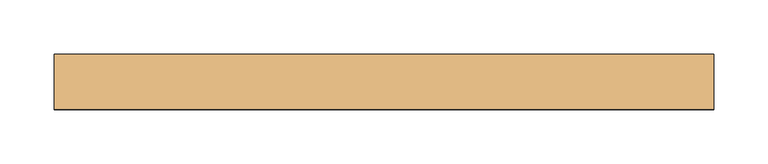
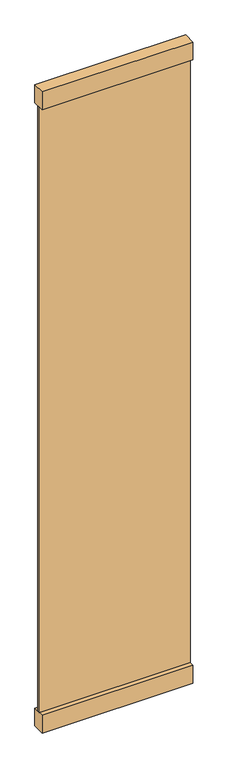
"""IFC4 building model written with IfcOpenShell, lengths in millimetres: door geometry, Planitar - Swap_Full Glass_Panel_D2 : Planitar - Swap_Full Glass_Panel_D2."""

import ifcopenshell
import ifcopenshell.guid

model = None  # the IFC model being written
_history = None  # IfcOwnerHistory: only IFC2X3 demands one
_inside = {}  # id of a spatial element -> (the spatial element, [elements in it])
_under = {}  # id of a project, library or spatial element -> (it, [spatial elements below it])
_declared = {}  # id of a project -> (the project, [libraries it declares])
_typed = {}  # id of a type object -> (the type object, [elements of that type])
_made_of = {}  # id of a material, layer set ... -> (it, [elements and type objects made of it])


def new_model(schema):
    """Start an empty IFC model of exactly this schema.

    Asked for "IFC4X3", IfcOpenShell would pick the latest addendum, in which some entities
    have other attributes; the version numbers below select the first issue.
    IFC2X3 requires an IfcOwnerHistory on every rooted entity: one is made here for all.
    """
    global model, _history
    if schema == "IFC4X3":
        model = ifcopenshell.file(schema_version=(4, 3, 0, 0))
    else:
        model = ifcopenshell.file(schema=schema)
    _inside.clear()
    _under.clear()
    _declared.clear()
    _typed.clear()
    _made_of.clear()
    _history = None
    if model.schema == "IFC2X3":
        org = make("IfcOrganization", Name="unknown")
        user = make(
            "IfcPersonAndOrganization",
            ThePerson=make("IfcPerson", FamilyName="unknown"),
            TheOrganization=org,
        )
        app = make(
            "IfcApplication",
            ApplicationDeveloper=org,
            Version="unknown",
            ApplicationFullName="unknown",
            ApplicationIdentifier="unknown",
        )
        _history = make(
            "IfcOwnerHistory",
            OwningUser=user,
            OwningApplication=app,
            ChangeAction="ADDED",
            CreationDate=0,
        )
    return model


def make(cls, **values):
    """One entity of the class cls with the attributes given. An attribute that is None is left unset."""
    return model.create_entity(
        cls, **{name: value for name, value in values.items() if value is not None}
    )


def rooted(cls, **values):
    """An entity with a GlobalId (a new one), such as an element, a storey or a relation."""
    return make(cls, GlobalId=ifcopenshell.guid.new(), OwnerHistory=_history, **values)


def si_unit(unit_type, name, prefix=None):
    """IfcSIUnit, for example si_unit("LENGTHUNIT", "METRE", prefix="MILLI")."""
    return make("IfcSIUnit", UnitType=unit_type, Prefix=prefix, Name=name)


def assignment(units):
    """IfcUnitAssignment: the units of a project."""
    return None if units is None else make("IfcUnitAssignment", Units=units)


def point(xyz):
    """IfcCartesianPoint."""
    return None if xyz is None else make("IfcCartesianPoint", Coordinates=xyz)


def direction(xyz):
    """IfcDirection."""
    return None if xyz is None else make("IfcDirection", DirectionRatios=xyz)


def frame(location, z_axis=None, x_axis=None):
    """IfcAxis2Placement3D, a coordinate frame: its origin and axes. An axis left out is left unset."""
    return make(
        "IfcAxis2Placement3D",
        Location=point(location),
        Axis=direction(z_axis),
        RefDirection=direction(x_axis),
    )


def origin():
    """The frame at (0, 0, 0) with its axes left unset."""
    return frame((0.0, 0.0, 0.0))


def origin_with_axes():
    """The frame at (0, 0, 0) with the z axis (0, 0, 1) and the x axis (1, 0, 0) written out."""
    return frame((0.0, 0.0, 0.0), z_axis=(0.0, 0.0, 1.0), x_axis=(1.0, 0.0, 0.0))


def place(relative_to, where):
    """IfcLocalPlacement: puts the frame where relative to a parent placement (None: the world)."""
    return make(
        "IfcLocalPlacement", PlacementRelTo=relative_to, RelativePlacement=where
    )


def context(
    kind, dimensions, precision=None, world=None, true_north=None, identifier=None
):
    """IfcGeometricRepresentationContext, for example the 3D "Model" context."""
    return make(
        "IfcGeometricRepresentationContext",
        ContextIdentifier=identifier,
        ContextType=kind,
        CoordinateSpaceDimension=dimensions,
        Precision=precision,
        WorldCoordinateSystem=world,
        TrueNorth=true_north,
    )


def project(units=None, contexts=None):
    """IfcProject with its units and contexts."""
    return rooted(
        "IfcProject",
        Name="project",
        RepresentationContexts=contexts,
        UnitsInContext=assignment(units),
    )


def spatial(cls, under=None, at=None, **own):
    """A site, building, storey or space (cls), placed at a placement, below another one or the project."""
    s = rooted(cls, ObjectPlacement=at, **own)
    if under is not None:
        _under.setdefault(under.id(), (under, []))[1].append(s)
    return s


def polyline(points):
    """IfcPolyline through the points."""
    return make("IfcPolyline", Points=[point(p) for p in points])


def outline(outer, holes=None, kind="AREA"):
    """IfcArbitraryClosedProfileDef: a profile drawn as a closed curve; with holes, ...WithVoids."""
    if holes is None:
        return make("IfcArbitraryClosedProfileDef", ProfileType=kind, OuterCurve=outer)
    return make(
        "IfcArbitraryProfileDefWithVoids",
        ProfileType=kind,
        OuterCurve=outer,
        InnerCurves=holes,
    )


def extrude(swept, where, along, depth):
    """IfcExtrudedAreaSolid: the profile swept, set in the frame where, extruded along a direction by depth."""
    return make(
        "IfcExtrudedAreaSolid",
        SweptArea=swept,
        Position=where,
        ExtrudedDirection=direction(along),
        Depth=depth,
    )


def shape(context_of_items, identifier, shape_type, items):
    """IfcShapeRepresentation: the items that make up one representation, for example the "Body"."""
    return make(
        "IfcShapeRepresentation",
        ContextOfItems=context_of_items,
        RepresentationIdentifier=identifier,
        RepresentationType=shape_type,
        Items=items,
    )


def source(mapping_origin, context_of_items, identifier, shape_type, items):
    """IfcRepresentationMap: a shape defined once, which mapped items show again and again."""
    return make(
        "IfcRepresentationMap",
        MappingOrigin=mapping_origin,
        MappedRepresentation=shape(context_of_items, identifier, shape_type, items),
    )


def transform(
    local_origin,
    x_axis=None,
    y_axis=None,
    z_axis=None,
    scale=None,
    scale2=None,
    scale3=None,
    uniform=True,
):
    """IfcCartesianTransformationOperator3D, or its non-uniform kind. x_axis, y_axis, z_axis: its Axis1, 2, 3."""
    if uniform:
        return make(
            "IfcCartesianTransformationOperator3D",
            Axis1=direction(x_axis),
            Axis2=direction(y_axis),
            LocalOrigin=point(local_origin),
            Scale=scale,
            Axis3=direction(z_axis),
        )
    return make(
        "IfcCartesianTransformationOperator3DnonUniform",
        Axis1=direction(x_axis),
        Axis2=direction(y_axis),
        LocalOrigin=point(local_origin),
        Scale=scale,
        Axis3=direction(z_axis),
        Scale2=scale2,
        Scale3=scale3,
    )


def mapped(mapping_source, mapping_target):
    """IfcMappedItem: shows the shape of a source again, moved by a transform."""
    return make(
        "IfcMappedItem", MappingSource=mapping_source, MappingTarget=mapping_target
    )


def made_of(thing, what):
    """Note that an element or type object is made of a material, layer set ...; save() writes the relation."""
    if what is not None:
        _made_of.setdefault(what.id(), (what, []))[1].append(thing)
    return thing


def element(
    cls,
    number,
    at=None,
    inside=None,
    cuts=None,
    type_object=None,
    material=None,
    context=None,
    identifier="Body",
    shape_type=None,
    held_by="IfcProductDefinitionShape",
    body=None,
    shapes=None,
    **own,
):
    """One element of the class cls, such as IfcWall. Its Tag is "e" and its number.

    at: its placement. inside: the storey or other place that contains it. cuts: it is an
    opening in that element (IfcRelVoidsElement). A single representation is given by context,
    identifier, shape_type and body (its items); several are given by shapes. held_by: the class
    of the entity that holds the representations. save() writes the other relations.
    """
    e = rooted(cls, Tag="e%d" % number, ObjectPlacement=at, **own)
    if body is not None:
        shapes = [shape(context, identifier, shape_type, body)]
    if shapes is not None:
        e.Representation = make(held_by, Representations=shapes)
    if inside is not None:
        _inside.setdefault(inside.id(), (inside, []))[1].append(e)
    if cuts is not None:
        rooted(
            "IfcRelVoidsElement", RelatingBuildingElement=cuts, RelatedOpeningElement=e
        )
    if type_object is not None:
        _typed.setdefault(type_object.id(), (type_object, []))[1].append(e)
    return made_of(e, material)


def aggregate(whole, parts):
    """IfcRelAggregates: a whole, such as a stair, and the parts it consists of."""
    return rooted("IfcRelAggregates", RelatingObject=whole, RelatedObjects=parts)


def save(model, path):
    """Write the relations noted so far, then the file.

    IfcRelAggregates (storeys below a building ...), IfcRelContainedInSpatialStructure (elements
    in a storey), IfcRelDefinesByType, IfcRelAssociatesMaterial and IfcRelDeclares: one each for
    every whole, place, type object, material and project.
    """
    for whole, parts in _under.values():
        aggregate(whole, parts)
    for where, things in _inside.values():
        rooted(
            "IfcRelContainedInSpatialStructure",
            RelatedElements=things,
            RelatingStructure=where,
        )
    for kind, things in _typed.values():
        rooted("IfcRelDefinesByType", RelatedObjects=things, RelatingType=kind)
    for what, things in _made_of.values():
        rooted("IfcRelAssociatesMaterial", RelatedObjects=things, RelatingMaterial=what)
    for by, libraries in _declared.values():
        rooted("IfcRelDeclares", RelatingContext=by, RelatedDefinitions=libraries)
    model.write(path)


def door_f9c3aceb(model_context):
    return source(origin(), model_context, "Body", "SweptSolid", [
        extrude(outline(polyline([(304.8, -25.4), (-304.8, -25.4), (-304.8, 25.4), (304.8, 25.4), (304.8, -25.4)])), origin_with_axes(), (0.0, 0.0, 1.0), 76.2),
        extrude(outline(polyline([(304.8, -25.4), (-304.8, -25.4), (-304.8, 25.4), (304.8, 25.4), (304.8, -25.4)])), frame((0.0, 0.0, 2667.0), z_axis=(0.0, 0.0, 1.0), x_axis=(1.0, 0.0, 0.0)), (0.0, 0.0, 1.0), 76.2),
        extrude(outline(polyline([(304.8, -6.35), (-304.8, -6.35), (-304.8, 6.35), (304.8, 6.35), (304.8, -6.35)])), frame((0.0, 0.0, 76.2), z_axis=(0.0, 0.0, 1.0), x_axis=(1.0, 0.0, 0.0)), (0.0, 0.0, 1.0), 2590.8),
    ])


if __name__ == "__main__":
    model = new_model("IFC4")
    model_context = context("Model", 3, world=origin())
    ifc_project = project(units=[si_unit("LENGTHUNIT", "METRE", prefix="MILLI")], contexts=[model_context])
    site = spatial("IfcSite", under=ifc_project)
    building = spatial("IfcBuilding", under=site)
    placement = place(None, origin())
    door_shape = door_f9c3aceb(model_context)
    element("IfcDoor", 1, ObjectType="Planitar - Swap_Full Glass_Panel_D2 : Planitar - Swap_Full Glass_Panel_D2", at=placement, inside=building, context=model_context, shape_type="MappedRepresentation", body=[
        mapped(door_shape, transform((0.0, 0.0, 0.0), x_axis=(1.0, 0.0, 0.0), y_axis=(0.0, 1.0, 0.0), z_axis=(0.0, 0.0, 1.0))),
    ])
    save(model, "model.ifc")
